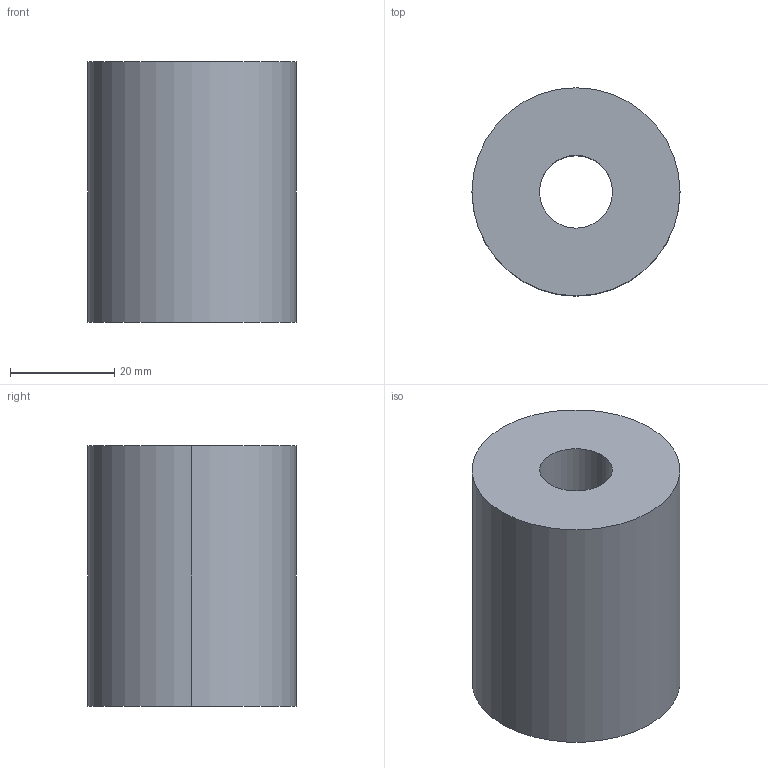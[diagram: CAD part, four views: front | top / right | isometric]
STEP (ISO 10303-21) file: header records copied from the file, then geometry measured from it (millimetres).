
FILE_DESCRIPTION(/* description */ (''),/* implementation_level */ '2;1');
FILE_NAME(/* name */ '3d_pa40-50_04915_r00.stp',/* time_stamp */ '2011-01-10T14:11:58+09:00',/* author */ ('MISUMI'),/* organization */ (''),/* preprocessor_version */ 'ST-DEVELOPER v11',/* originating_system */ 'UGS - NX 5.0',/* authorisation */ '');
FILE_SCHEMA (('CONFIG_CONTROL_DESIGN'));
Length unit declared in the file: millimetre
Products named in the file (1): 3d_pa40-50_04915_r00
Bounding box: 40 x 40 x 50 mm (x, y, z)
Volume: 55134.9 mm3; surface area: 10687.7 mm2
Topology: 1 solids, 1 shells, 6 faces, 12 edges, 8 vertices
Faces by surface type: cylinder 4, plane 2
Entity records: 254 total; most frequent: DIRECTION 34, CARTESIAN_POINT 27, ORIENTED_EDGE 24, AXIS2_PLACEMENT_3D 15, EDGE_CURVE 12, EDGE_LOOP 8, VERTEX_POINT 8, CIRCLE 8
